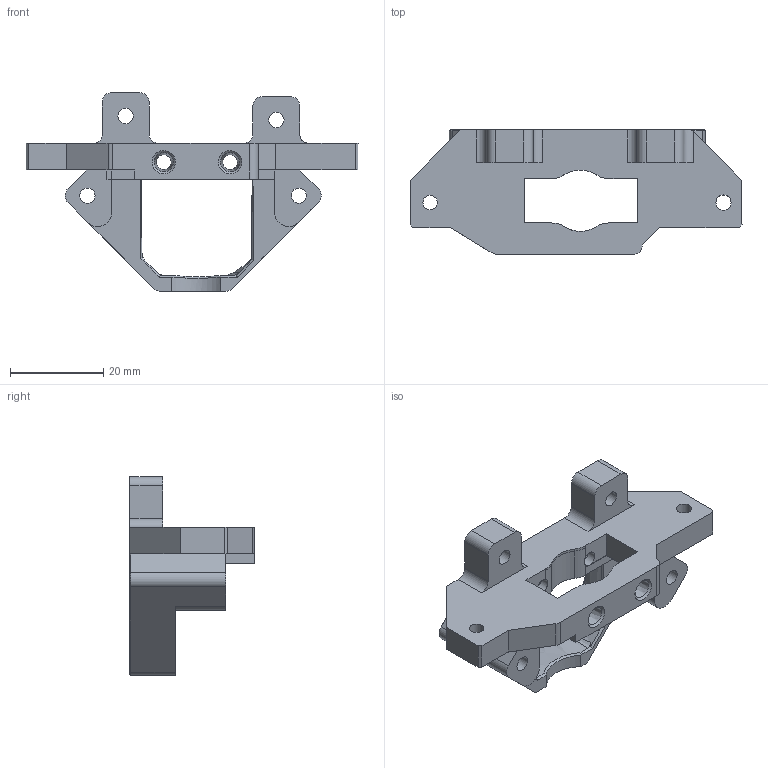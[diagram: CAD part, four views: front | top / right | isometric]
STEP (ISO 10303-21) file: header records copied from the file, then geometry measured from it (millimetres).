
FILE_DESCRIPTION(/* description */ (''),/* implementation_level */ '2;1');
FILE_NAME(/* name */ 'C:/Users/Martin/Documents/icarus-2.1/icarus-2-current-step-files/2-mounts/mount-tbg-lite-dragonfly-bms-2.1.step',/* time_stamp */ '2022-08-22T21:35:22+02:00',/* author */ (''),/* organization */ (''),/* preprocessor_version */ 'ST-DEVELOPER v19',/* originating_system */ 'Autodesk Translation Framework v11.7.0.108',/* authorisation */ '');
FILE_SCHEMA (('AUTOMOTIVE_DESIGN { 1 0 10303 214 3 1 1 }'));
Length unit declared in the file: millimetre
Products named in the file (1): icarus-2-hotend-extruder-mounts
Bounding box: 71.07 x 26.66 x 42.54 mm (x, y, z)
Volume: 13884.8 mm3; surface area: 8356.6 mm2
Topology: 1 solids, 1 shells, 137 faces, 409 edges, 270 vertices
Faces by surface type: plane 62, cylinder 43, bspline 24, cone 8
Full cylindrical faces by diameter (mm): 3.1 x1, 3.2 x4, 3.25 x4, 3.3 x2, 5.8 x2
Entity records: 6076 total; most frequent: CARTESIAN_POINT 2397, ORIENTED_EDGE 818, DIRECTION 682, EDGE_CURVE 409, VERTEX_POINT 270, LINE 232, VECTOR 232, AXIS2_PLACEMENT_3D 225
